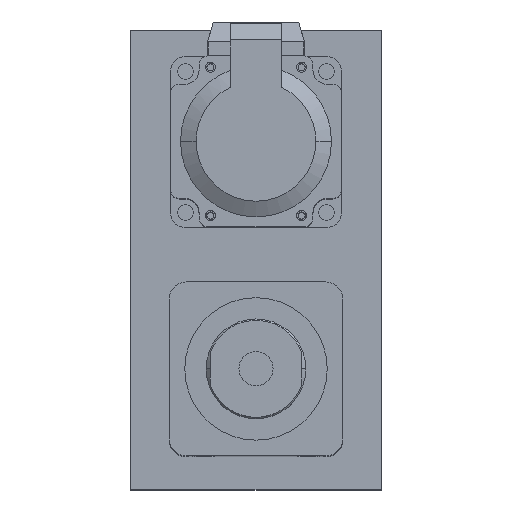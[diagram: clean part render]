
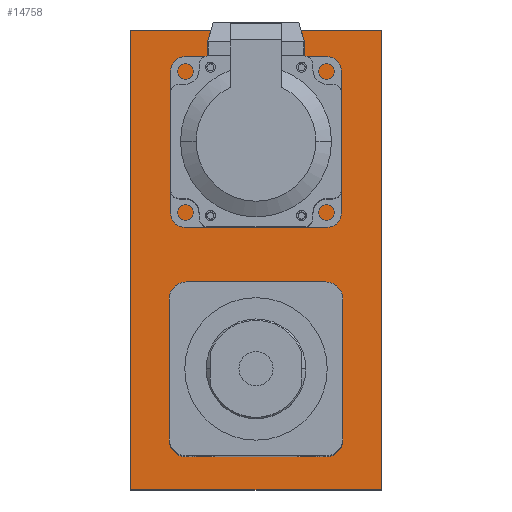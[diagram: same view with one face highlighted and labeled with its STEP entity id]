
A CAD part, top view. The second image highlights one B-rep face of the part: STEP entity #14758.
In plain terms, the highlighted planar face has unit normal (0, 0, 1).
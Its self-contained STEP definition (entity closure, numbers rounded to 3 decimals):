
#198 = EDGE_CURVE ( 'NONE', #8092, #8786, #18370, .T. ) ;
#245 = EDGE_CURVE ( 'NONE', #2731, #20984, #20155, .T. ) ;
#573 = CARTESIAN_POINT ( 'NONE',  ( -24.5, -24.5, -31. ) ) ;
#635 = CARTESIAN_POINT ( 'NONE',  ( 30.5, -24.5, -31. ) ) ;
#1072 = CARTESIAN_POINT ( 'NONE',  ( -30.5, -24.5, -31. ) ) ;
#1112 = EDGE_CURVE ( 'NONE', #2844, #8246, #20389, .T. ) ;
#1213 = CARTESIAN_POINT ( 'NONE',  ( 30.5, 24.5, -31. ) ) ;
#1237 = VERTEX_POINT ( 'NONE', #20170 ) ;
#1407 = CARTESIAN_POINT ( 'NONE',  ( 44., -42., -31. ) ) ;
#1826 = VECTOR ( 'NONE', #7178, 1000. ) ;
#1974 = EDGE_CURVE ( 'NONE', #22400, #1237, #8279, .T. ) ;
#2108 = FACE_BOUND ( 'NONE', #4413, .T. ) ;
#2591 = DIRECTION ( 'NONE',  ( -1., 0., 0. ) ) ;
#2731 = VERTEX_POINT ( 'NONE', #19865 ) ;
#2815 = LINE ( 'NONE', #635, #10536 ) ;
#2844 = VERTEX_POINT ( 'NONE', #23263 ) ;
#3114 = CARTESIAN_POINT ( 'NONE',  ( -30.5, 24.5, -31. ) ) ;
#3326 = ORIENTED_EDGE ( 'NONE', *, *, #17759, .F. ) ;
#3878 = EDGE_CURVE ( 'NONE', #20745, #23697, #13332, .T. ) ;
#3923 = ORIENTED_EDGE ( 'NONE', *, *, #22897, .F. ) ;
#4020 = DIRECTION ( 'NONE',  ( 0., 0., 1. ) ) ;
#4313 = ORIENTED_EDGE ( 'NONE', *, *, #13068, .T. ) ;
#4413 = EDGE_LOOP ( 'NONE', ( #3326, #11943 ) ) ;
#4922 = EDGE_CURVE ( 'NONE', #23697, #12947, #20969, .T. ) ;
#5201 = EDGE_CURVE ( 'NONE', #8246, #8092, #15926, .T. ) ;
#5696 = CARTESIAN_POINT ( 'NONE',  ( -24.5, 24.5, -31. ) ) ;
#5857 = DIRECTION ( 'NONE',  ( 0., 0., -1. ) ) ;
#5918 = ORIENTED_EDGE ( 'NONE', *, *, #245, .T. ) ;
#6356 = CARTESIAN_POINT ( 'NONE',  ( 0., 80., -31. ) ) ;
#6758 = LINE ( 'NONE', #10899, #19437 ) ;
#6831 = EDGE_CURVE ( 'NONE', #16296, #13101, #2815, .T. ) ;
#7164 = DIRECTION ( 'NONE',  ( 0., 1., 0. ) ) ;
#7178 = DIRECTION ( 'NONE',  ( 1., 0., 0. ) ) ;
#7314 = CARTESIAN_POINT ( 'NONE',  ( -44., -42., -31. ) ) ;
#7401 = CARTESIAN_POINT ( 'NONE',  ( 44., 119., -31. ) ) ;
#8092 = VERTEX_POINT ( 'NONE', #1072 ) ;
#8246 = VERTEX_POINT ( 'NONE', #18412 ) ;
#8279 = CIRCLE ( 'NONE', #19293, 15.796 ) ;
#8315 = CARTESIAN_POINT ( 'NONE',  ( 24.5, 30.5, -31. ) ) ;
#8377 = DIRECTION ( 'NONE',  ( 1., 0., 0. ) ) ;
#8393 = CARTESIAN_POINT ( 'NONE',  ( 44., -42., -31. ) ) ;
#8404 = EDGE_CURVE ( 'NONE', #8786, #2731, #18676, .T. ) ;
#8784 = AXIS2_PLACEMENT_3D ( 'NONE', #12547, #16563, #22175 ) ;
#8786 = VERTEX_POINT ( 'NONE', #3114 ) ;
#9194 = ORIENTED_EDGE ( 'NONE', *, *, #6831, .T. ) ;
#9621 = CIRCLE ( 'NONE', #8784, 6. ) ;
#9629 = AXIS2_PLACEMENT_3D ( 'NONE', #6356, #17676, #17835 ) ;
#9716 = AXIS2_PLACEMENT_3D ( 'NONE', #573, #11728, #2591 ) ;
#9893 = ORIENTED_EDGE ( 'NONE', *, *, #3878, .F. ) ;
#10130 = DIRECTION ( 'NONE',  ( 0., -1., 0. ) ) ;
#10476 = CARTESIAN_POINT ( 'NONE',  ( 24.5, 30.5, -31. ) ) ;
#10536 = VECTOR ( 'NONE', #10130, 1000. ) ;
#10899 = CARTESIAN_POINT ( 'NONE',  ( -44., -42., -31. ) ) ;
#10925 = VECTOR ( 'NONE', #16520, 1000. ) ;
#11296 = CARTESIAN_POINT ( 'NONE',  ( 44., 119., -31. ) ) ;
#11368 = ORIENTED_EDGE ( 'NONE', *, *, #17915, .F. ) ;
#11400 = ORIENTED_EDGE ( 'NONE', *, *, #8404, .T. ) ;
#11560 = DIRECTION ( 'NONE',  ( 1., 0., 0. ) ) ;
#11715 = PLANE ( 'NONE',  #15580 ) ;
#11728 = DIRECTION ( 'NONE',  ( 0., 0., -1. ) ) ;
#11832 = CARTESIAN_POINT ( 'NONE',  ( 44., -42., -31. ) ) ;
#11847 = DIRECTION ( 'NONE',  ( 0., 0., 1. ) ) ;
#11943 = ORIENTED_EDGE ( 'NONE', *, *, #1974, .F. ) ;
#11954 = CARTESIAN_POINT ( 'NONE',  ( 24.5, 24.5, -31. ) ) ;
#12391 = CIRCLE ( 'NONE', #9629, 15.796 ) ;
#12433 = ORIENTED_EDGE ( 'NONE', *, *, #5201, .T. ) ;
#12547 = CARTESIAN_POINT ( 'NONE',  ( 24.5, -24.5, -31. ) ) ;
#12799 = EDGE_LOOP ( 'NONE', ( #21549, #12433, #22837, #11400, #5918, #23779, #9194, #4313 ) ) ;
#12947 = VERTEX_POINT ( 'NONE', #8393 ) ;
#12949 = CARTESIAN_POINT ( 'NONE',  ( 30.5, -24.5, -31. ) ) ;
#13068 = EDGE_CURVE ( 'NONE', #13101, #2844, #9621, .T. ) ;
#13101 = VERTEX_POINT ( 'NONE', #12949 ) ;
#13180 = VERTEX_POINT ( 'NONE', #7314 ) ;
#13332 = LINE ( 'NONE', #11296, #13647 ) ;
#13537 = DIRECTION ( 'NONE',  ( 1., 0., 0. ) ) ;
#13647 = VECTOR ( 'NONE', #20701, 1000. ) ;
#14289 = EDGE_LOOP ( 'NONE', ( #23727, #9893, #11368, #3923 ) ) ;
#14758 = ADVANCED_FACE ( 'NONE', ( #2108, #17528, #16617 ), #11715, .T. ) ;
#14989 = CARTESIAN_POINT ( 'NONE',  ( -30.5, -24.5, -31. ) ) ;
#15352 = AXIS2_PLACEMENT_3D ( 'NONE', #5696, #5857, #11560 ) ;
#15580 = AXIS2_PLACEMENT_3D ( 'NONE', #21215, #4020, #13537 ) ;
#15738 = VECTOR ( 'NONE', #19076, 1000. ) ;
#15926 = CIRCLE ( 'NONE', #9716, 6. ) ;
#16048 = DIRECTION ( 'NONE',  ( -1., 0., 0. ) ) ;
#16296 = VERTEX_POINT ( 'NONE', #1213 ) ;
#16520 = DIRECTION ( 'NONE',  ( 0., -1., 0. ) ) ;
#16563 = DIRECTION ( 'NONE',  ( 0., 0., -1. ) ) ;
#16617 = FACE_OUTER_BOUND ( 'NONE', #14289, .T. ) ;
#17360 = AXIS2_PLACEMENT_3D ( 'NONE', #11954, #23524, #8377 ) ;
#17528 = FACE_BOUND ( 'NONE', #12799, .T. ) ;
#17676 = DIRECTION ( 'NONE',  ( 0., 0., 1. ) ) ;
#17759 = EDGE_CURVE ( 'NONE', #1237, #22400, #12391, .T. ) ;
#17835 = DIRECTION ( 'NONE',  ( 1., 0., 0. ) ) ;
#17905 = LINE ( 'NONE', #11832, #21755 ) ;
#17915 = EDGE_CURVE ( 'NONE', #13180, #20745, #6758, .T. ) ;
#18370 = LINE ( 'NONE', #14989, #15738 ) ;
#18412 = CARTESIAN_POINT ( 'NONE',  ( -24.5, -30.5, -31. ) ) ;
#18676 = CIRCLE ( 'NONE', #15352, 6. ) ;
#19076 = DIRECTION ( 'NONE',  ( 0., 1., 0. ) ) ;
#19293 = AXIS2_PLACEMENT_3D ( 'NONE', #23341, #11847, #21430 ) ;
#19437 = VECTOR ( 'NONE', #7164, 1000. ) ;
#19784 = VECTOR ( 'NONE', #16048, 1000. ) ;
#19865 = CARTESIAN_POINT ( 'NONE',  ( -24.5, 30.5, -31. ) ) ;
#20155 = LINE ( 'NONE', #8315, #1826 ) ;
#20170 = CARTESIAN_POINT ( 'NONE',  ( 15.796, 80., -31. ) ) ;
#20389 = LINE ( 'NONE', #23339, #19784 ) ;
#20701 = DIRECTION ( 'NONE',  ( 1., 0., 0. ) ) ;
#20745 = VERTEX_POINT ( 'NONE', #22697 ) ;
#20969 = LINE ( 'NONE', #1407, #10925 ) ;
#20984 = VERTEX_POINT ( 'NONE', #10476 ) ;
#21215 = CARTESIAN_POINT ( 'NONE',  ( 0., 0., -31. ) ) ;
#21430 = DIRECTION ( 'NONE',  ( 1., 0., 0. ) ) ;
#21441 = CARTESIAN_POINT ( 'NONE',  ( -15.796, 80., -31. ) ) ;
#21549 = ORIENTED_EDGE ( 'NONE', *, *, #1112, .T. ) ;
#21755 = VECTOR ( 'NONE', #23155, 1000. ) ;
#22175 = DIRECTION ( 'NONE',  ( 1., 0., 0. ) ) ;
#22236 = CIRCLE ( 'NONE', #17360, 6. ) ;
#22400 = VERTEX_POINT ( 'NONE', #21441 ) ;
#22697 = CARTESIAN_POINT ( 'NONE',  ( -44., 119., -31. ) ) ;
#22837 = ORIENTED_EDGE ( 'NONE', *, *, #198, .T. ) ;
#22897 = EDGE_CURVE ( 'NONE', #12947, #13180, #17905, .T. ) ;
#23155 = DIRECTION ( 'NONE',  ( -1., 0., 0. ) ) ;
#23263 = CARTESIAN_POINT ( 'NONE',  ( 24.5, -30.5, -31. ) ) ;
#23339 = CARTESIAN_POINT ( 'NONE',  ( 24.5, -30.5, -31. ) ) ;
#23341 = CARTESIAN_POINT ( 'NONE',  ( 0., 80., -31. ) ) ;
#23524 = DIRECTION ( 'NONE',  ( 0., 0., -1. ) ) ;
#23697 = VERTEX_POINT ( 'NONE', #7401 ) ;
#23727 = ORIENTED_EDGE ( 'NONE', *, *, #4922, .F. ) ;
#23779 = ORIENTED_EDGE ( 'NONE', *, *, #24340, .T. ) ;
#24340 = EDGE_CURVE ( 'NONE', #20984, #16296, #22236, .T. ) ;
